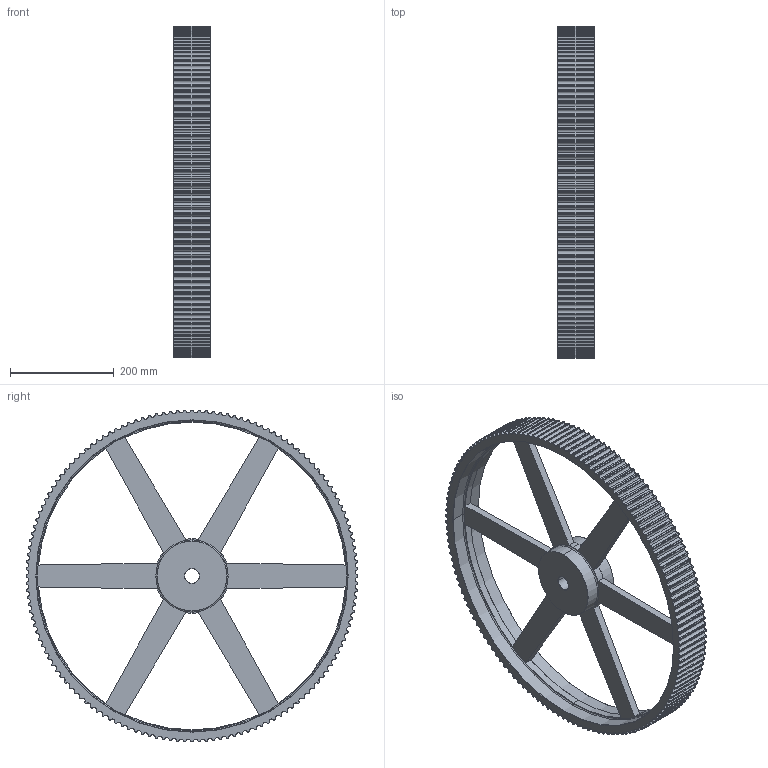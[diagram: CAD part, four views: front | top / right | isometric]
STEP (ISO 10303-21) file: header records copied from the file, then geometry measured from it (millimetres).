
FILE_DESCRIPTION(('STEP AP203'),'1');
FILE_NAME('144_-_14_m_55.stp','2019-01-03T11:48:10',('TraceParts'),('TraceParts S.A.'),'Spatial InterOp 3D',' ',' ');
FILE_SCHEMA(('CONFIG_CONTROL_DESIGN'));
Length unit declared in the file: millimetre
Products named in the file (1): 1
Bounding box: 70 x 638.92 x 638.92 mm (x, y, z)
Volume: 4226204.3 mm3; surface area: 616713.9 mm2
Topology: 1 solids, 1 shells, 784 faces, 2322 edges, 1544 vertices
Faces by surface type: cylinder 746, plane 18, cone 12, torus 8
Entity records: 27230 total; most frequent: DIRECTION 5420, CARTESIAN_POINT 4651, ORIENTED_EDGE 4644, EDGE_CURVE 2322, AXIS2_PLACEMENT_3D 2313, VERTEX_POINT 1544, CIRCLE 1528, EDGE_LOOP 802
